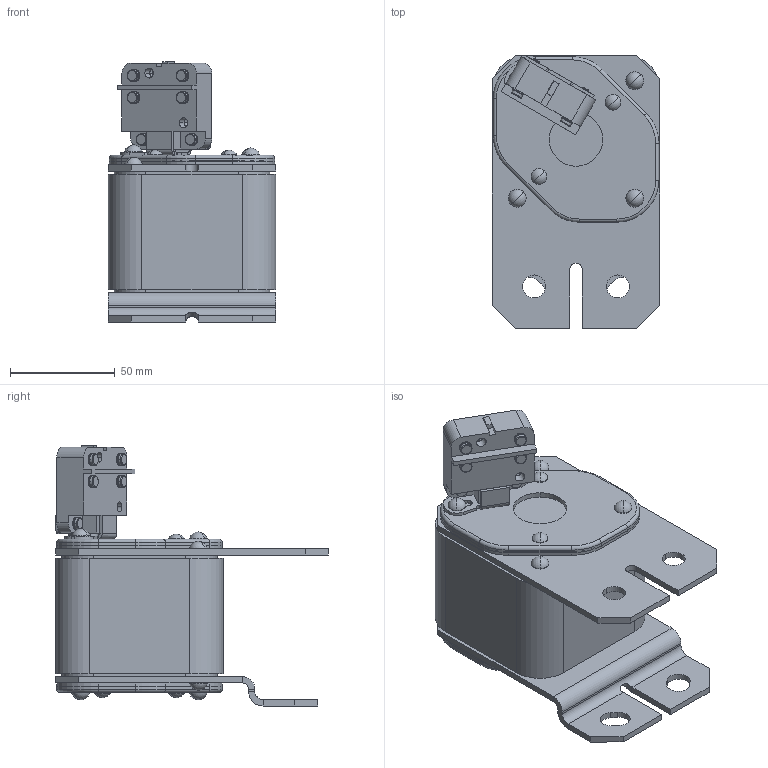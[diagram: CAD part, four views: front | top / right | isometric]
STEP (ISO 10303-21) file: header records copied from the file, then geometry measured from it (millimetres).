
FILE_DESCRIPTION (( 'STEP AP214' ), '1' );
FILE_NAME ('ﾏﾏ60ﾑ-41ﾊﾏ3-XXXX-XXXX-ﾊﾝﾀﾇ.STEP', '2023-05-02T11:09:50', ( '' ), ( '' ), 'SwSTEP 2.0', 'SolidWorks 2018', '' );
FILE_SCHEMA (( 'AUTOMOTIVE_DESIGN' ));
Length unit declared in the file: millimetre
Products named in the file (1): ﾏﾏ60ﾑ-41ﾊﾏ3-XXXX-XXXX-ﾊﾝﾀﾇ
Bounding box: 80 x 130.07 x 124 mm (x, y, z)
Volume: 467801.5 mm3; surface area: 157687.8 mm2
Topology: 39 solids, 39 shells, 781 faces, 1837 edges, 1174 vertices
Faces by surface type: cylinder 368, plane 286, torus 72, cone 30, sphere 24, bspline 1
Entity records: 32115 total; most frequent: DIRECTION 4331, CARTESIAN_POINT 4019, ORIENTED_EDGE 3674, EDGE_CURVE 1837, AXIS2_PLACEMENT_3D 1723, VERTEX_POINT 1174, EDGE_LOOP 975, CIRCLE 942
